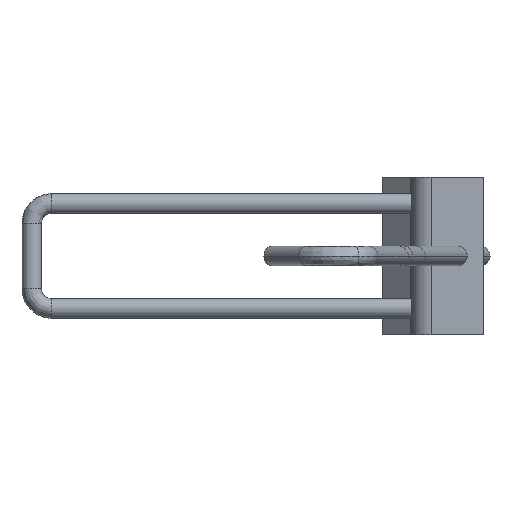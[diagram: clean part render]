
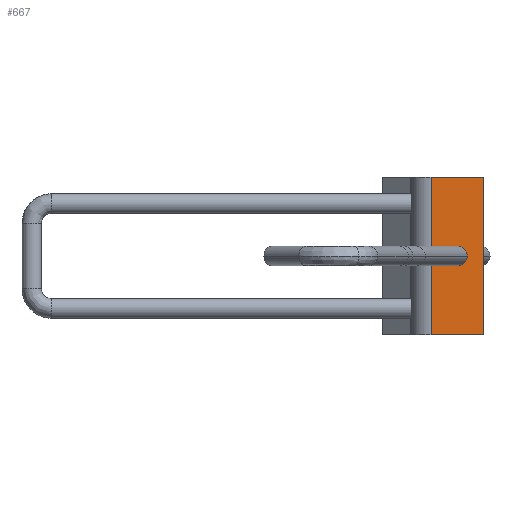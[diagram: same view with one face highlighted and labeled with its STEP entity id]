
A CAD part, left-side view. The second image highlights one B-rep face of the part: STEP entity #667.
In plain terms, the highlighted planar face has unit normal (-1, 0, 0).
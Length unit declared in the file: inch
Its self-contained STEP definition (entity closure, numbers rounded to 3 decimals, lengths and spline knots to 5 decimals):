
#403=EDGE_CURVE('',#1067,#1068,#1069,.T.);
#523=EDGE_CURVE('',#1068,#1067,#1263,.T.);
#531=EDGE_CURVE('',#1273,#1274,#1275,.T.);
#583=EDGE_CURVE('',#1273,#1354,#1355,.T.);
#667=ADVANCED_FACE('',(#1472,#1473),#1474,.T.);
#777=EDGE_CURVE('',#1274,#1620,#1621,.T.);
#919=EDGE_CURVE('',#1354,#1620,#1787,.T.);
#1067=VERTEX_POINT('',#2040);
#1068=VERTEX_POINT('',#2041);
#1069=ELLIPSE('',#2042,0.19058,0.1875);
#1263=ELLIPSE('',#2415,0.19058,0.1875);
#1273=VERTEX_POINT('',#2451);
#1274=VERTEX_POINT('',#2452);
#1275=LINE('',#2453,#2454);
#1354=VERTEX_POINT('',#2571);
#1355=LINE('',#2572,#2573);
#1472=FACE_OUTER_BOUND('',#2974,.T.);
#1473=FACE_BOUND('',#2975,.T.);
#1474=PLANE('',#2976);
#1620=VERTEX_POINT('',#3626);
#1621=LINE('',#3627,#3628);
#1787=LINE('',#3962,#3963);
#2040=CARTESIAN_POINT('',(3.52252,-0.45015,1.5));
#2041=CARTESIAN_POINT('',(3.52252,-0.83131,1.5));
#2042=AXIS2_PLACEMENT_3D('',#4239,#4240,#4241);
#2415=AXIS2_PLACEMENT_3D('',#4433,#4434,#4435);
#2451=CARTESIAN_POINT('',(3.52252,-1.14678,0.0));
#2452=CARTESIAN_POINT('',(3.52252,-0.14678,0.0));
#2453=CARTESIAN_POINT('',(3.52252,-1.14678,0.0));
#2454=VECTOR('',#4440,1.0);
#2571=CARTESIAN_POINT('',(3.52252,-1.14678,3.0));
#2572=CARTESIAN_POINT('',(3.52252,-1.14678,0.0));
#2573=VECTOR('',#4530,1.0);
#2974=EDGE_LOOP('',(#4674,#4675,#4676,#4677));
#2975=EDGE_LOOP('',(#4678,#4679));
#2976=AXIS2_PLACEMENT_3D('',#4680,#4681,#4682);
#3626=CARTESIAN_POINT('',(3.52252,-0.14678,3.0));
#3627=CARTESIAN_POINT('',(3.52252,-0.14678,0.0));
#3628=VECTOR('',#4868,1.0);
#3962=CARTESIAN_POINT('',(3.52252,-1.14678,3.0));
#3963=VECTOR('',#5071,1.0);
#4239=CARTESIAN_POINT('',(3.52252,-0.64073,1.5));
#4240=DIRECTION('',(-1.0,0.0,0.0));
#4241=DIRECTION('',(0.0,-1.0,0.0));
#4433=CARTESIAN_POINT('',(3.52252,-0.64073,1.5));
#4434=DIRECTION('',(-1.0,0.0,0.0));
#4435=DIRECTION('',(0.0,-1.0,0.0));
#4440=DIRECTION('',(0.0,1.0,0.0));
#4530=DIRECTION('',(0.0,0.0,1.0));
#4674=ORIENTED_EDGE('',*,*,#919,.T.);
#4675=ORIENTED_EDGE('',*,*,#777,.F.);
#4676=ORIENTED_EDGE('',*,*,#531,.F.);
#4677=ORIENTED_EDGE('',*,*,#583,.T.);
#4678=ORIENTED_EDGE('',*,*,#403,.F.);
#4679=ORIENTED_EDGE('',*,*,#523,.F.);
#4680=CARTESIAN_POINT('',(3.52252,-0.64678,0.0));
#4681=DIRECTION('',(-1.0,-0.0,0.0));
#4682=DIRECTION('',(0.0,-1.0,-0.0));
#4868=DIRECTION('',(0.0,0.0,1.0));
#5071=DIRECTION('',(0.0,1.0,0.0));
